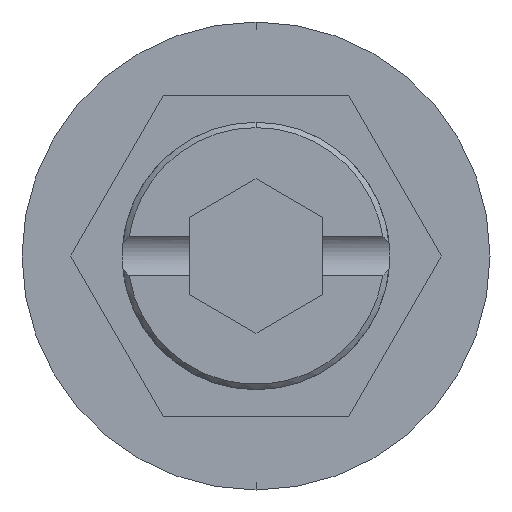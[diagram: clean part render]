
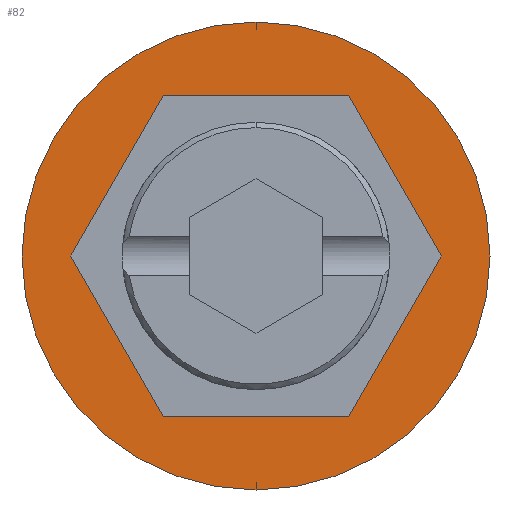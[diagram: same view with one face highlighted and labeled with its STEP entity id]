
A CAD part, front view. The second image highlights one B-rep face of the part: STEP entity #82.
In plain terms, the highlighted planar face has unit normal (0, -1, 0).
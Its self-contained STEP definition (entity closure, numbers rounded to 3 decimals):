
#28 = LINE ( 'NONE', #3020, #1483 ) ;
#55 = EDGE_CURVE ( 'NONE', #1186, #1891, #311, .T. ) ;
#56 = ORIENTED_EDGE ( 'NONE', *, *, #1477, .F. ) ;
#82 = ADVANCED_FACE ( 'NONE', ( #801, #2958 ), #2681, .T. ) ;
#100 = EDGE_CURVE ( 'NONE', #1891, #2838, #881, .T. ) ;
#109 = CARTESIAN_POINT ( 'NONE',  ( -6.928, 0., 0. ) ) ;
#147 = CARTESIAN_POINT ( 'NONE',  ( -3.464, 0., -6. ) ) ;
#225 = VECTOR ( 'NONE', #3411, 1000. ) ;
#268 = VECTOR ( 'NONE', #2093, 1000. ) ;
#282 = LINE ( 'NONE', #3318, #225 ) ;
#311 = LINE ( 'NONE', #1879, #268 ) ;
#411 = CARTESIAN_POINT ( 'NONE',  ( 0., 0., 8.75 ) ) ;
#436 = VERTEX_POINT ( 'NONE', #411 ) ;
#594 = ORIENTED_EDGE ( 'NONE', *, *, #2745, .F. ) ;
#643 = VERTEX_POINT ( 'NONE', #3323 ) ;
#801 = FACE_BOUND ( 'NONE', #1110, .T. ) ;
#811 = DIRECTION ( 'NONE',  ( 0.5, 0., -0.866 ) ) ;
#862 = EDGE_CURVE ( 'NONE', #2838, #1455, #282, .T. ) ;
#881 = LINE ( 'NONE', #1156, #1614 ) ;
#914 = VERTEX_POINT ( 'NONE', #3213 ) ;
#961 = EDGE_CURVE ( 'NONE', #914, #436, #1061, .T. ) ;
#1061 = CIRCLE ( 'NONE', #1734, 8.75 ) ;
#1110 = EDGE_LOOP ( 'NONE', ( #56, #594, #3216, #1235, #3352, #2951 ) ) ;
#1143 = DIRECTION ( 'NONE',  ( 0., 0., -1. ) ) ;
#1144 = DIRECTION ( 'NONE',  ( -1., 0., 0. ) ) ;
#1156 = CARTESIAN_POINT ( 'NONE',  ( 3.464, 0., 6. ) ) ;
#1186 = VERTEX_POINT ( 'NONE', #1970 ) ;
#1213 = DIRECTION ( 'NONE',  ( 0.5, 0., 0.866 ) ) ;
#1235 = ORIENTED_EDGE ( 'NONE', *, *, #100, .F. ) ;
#1262 = DIRECTION ( 'NONE',  ( 0., -1., 0. ) ) ;
#1286 = CARTESIAN_POINT ( 'NONE',  ( 0., 0., 0. ) ) ;
#1433 = EDGE_LOOP ( 'NONE', ( #3108, #1506 ) ) ;
#1439 = VECTOR ( 'NONE', #1213, 1000. ) ;
#1455 = VERTEX_POINT ( 'NONE', #109 ) ;
#1477 = EDGE_CURVE ( 'NONE', #643, #2009, #2295, .T. ) ;
#1483 = VECTOR ( 'NONE', #811, 1000. ) ;
#1506 = ORIENTED_EDGE ( 'NONE', *, *, #1748, .T. ) ;
#1531 = VECTOR ( 'NONE', #3238, 1000. ) ;
#1614 = VECTOR ( 'NONE', #1144, 1000. ) ;
#1734 = AXIS2_PLACEMENT_3D ( 'NONE', #2642, #2592, #2581 ) ;
#1748 = EDGE_CURVE ( 'NONE', #436, #914, #1766, .T. ) ;
#1766 = CIRCLE ( 'NONE', #2859, 8.75 ) ;
#1879 = CARTESIAN_POINT ( 'NONE',  ( 6.928, 0., 0. ) ) ;
#1891 = VERTEX_POINT ( 'NONE', #2444 ) ;
#1970 = CARTESIAN_POINT ( 'NONE',  ( 6.928, 0., 0. ) ) ;
#2009 = VERTEX_POINT ( 'NONE', #3118 ) ;
#2093 = DIRECTION ( 'NONE',  ( -0.5, 0., 0.866 ) ) ;
#2287 = LINE ( 'NONE', #2863, #1439 ) ;
#2295 = LINE ( 'NONE', #147, #1531 ) ;
#2319 = CARTESIAN_POINT ( 'NONE',  ( 0., 0., 0. ) ) ;
#2444 = CARTESIAN_POINT ( 'NONE',  ( 3.464, 0., 6. ) ) ;
#2538 = AXIS2_PLACEMENT_3D ( 'NONE', #2319, #2661, #3121 ) ;
#2581 = DIRECTION ( 'NONE',  ( 0., 0., -1. ) ) ;
#2592 = DIRECTION ( 'NONE',  ( 0., -1., 0. ) ) ;
#2642 = CARTESIAN_POINT ( 'NONE',  ( 0., 0., 0. ) ) ;
#2661 = DIRECTION ( 'NONE',  ( 0., -1., 0. ) ) ;
#2681 = PLANE ( 'NONE',  #2538 ) ;
#2745 = EDGE_CURVE ( 'NONE', #1455, #643, #28, .T. ) ;
#2838 = VERTEX_POINT ( 'NONE', #3490 ) ;
#2859 = AXIS2_PLACEMENT_3D ( 'NONE', #1286, #1262, #1143 ) ;
#2863 = CARTESIAN_POINT ( 'NONE',  ( 3.464, 0., -6. ) ) ;
#2951 = ORIENTED_EDGE ( 'NONE', *, *, #3154, .F. ) ;
#2958 = FACE_OUTER_BOUND ( 'NONE', #1433, .T. ) ;
#3020 = CARTESIAN_POINT ( 'NONE',  ( -6.928, 0., 0. ) ) ;
#3108 = ORIENTED_EDGE ( 'NONE', *, *, #961, .T. ) ;
#3118 = CARTESIAN_POINT ( 'NONE',  ( 3.464, 0., -6. ) ) ;
#3121 = DIRECTION ( 'NONE',  ( 0., 0., -1. ) ) ;
#3154 = EDGE_CURVE ( 'NONE', #2009, #1186, #2287, .T. ) ;
#3213 = CARTESIAN_POINT ( 'NONE',  ( 0., 0., -8.75 ) ) ;
#3216 = ORIENTED_EDGE ( 'NONE', *, *, #862, .F. ) ;
#3238 = DIRECTION ( 'NONE',  ( 1., 0., 0. ) ) ;
#3318 = CARTESIAN_POINT ( 'NONE',  ( -3.464, 0., 6. ) ) ;
#3323 = CARTESIAN_POINT ( 'NONE',  ( -3.464, 0., -6. ) ) ;
#3352 = ORIENTED_EDGE ( 'NONE', *, *, #55, .F. ) ;
#3411 = DIRECTION ( 'NONE',  ( -0.5, 0., -0.866 ) ) ;
#3490 = CARTESIAN_POINT ( 'NONE',  ( -3.464, 0., 6. ) ) ;
